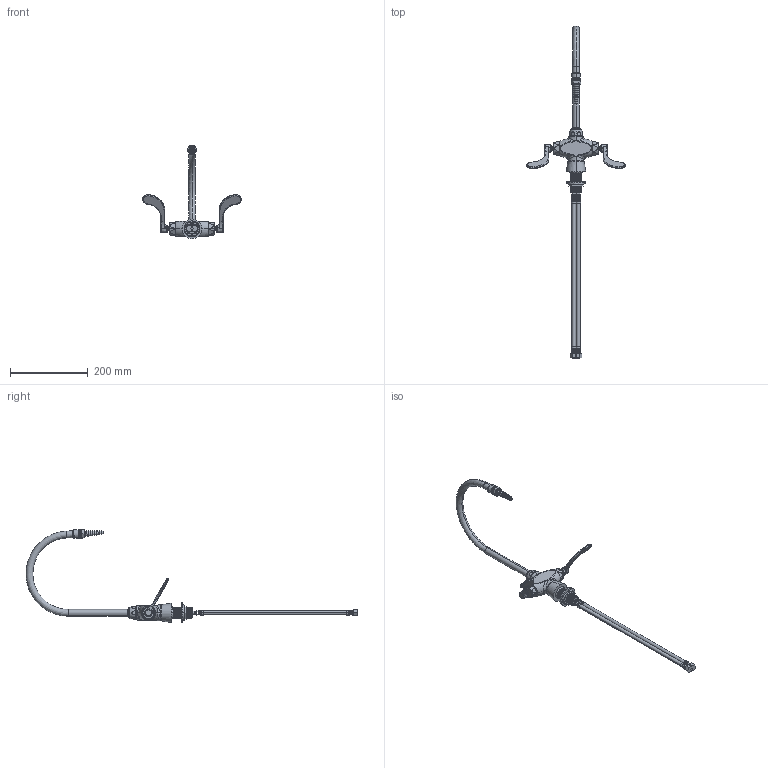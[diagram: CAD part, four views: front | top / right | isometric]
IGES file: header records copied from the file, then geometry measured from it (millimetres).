
Start section:  PTC IGES file: LWM1-C13-B.igs
Global section: file name: LWM1-C13-B.igs; native system: Creo Parametric by PTC Inc.; preprocessor: 2014500; author: usch_engrender; organization: Unknown; date: 20160210.102055; units: inch
Bounding box: 254.14 x 854.77 x 240.62 mm (x, y, z)
Surface area: 129811.6 mm2 (no closed solid volume)
Topology: 0 solids, 72 shells, 489 faces, 1478 edges, 1040 vertices
Faces by surface type: revolution 281, bspline 208
